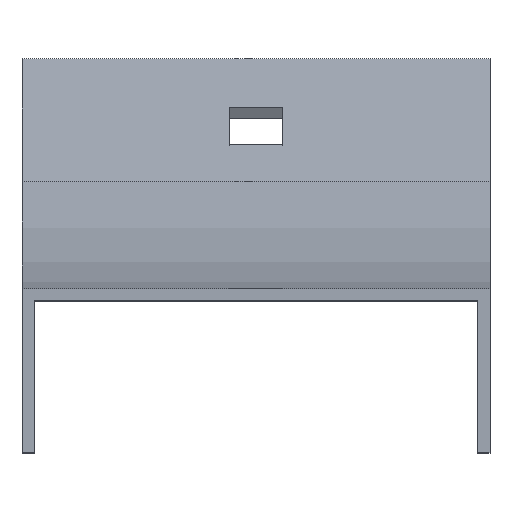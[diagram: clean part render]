
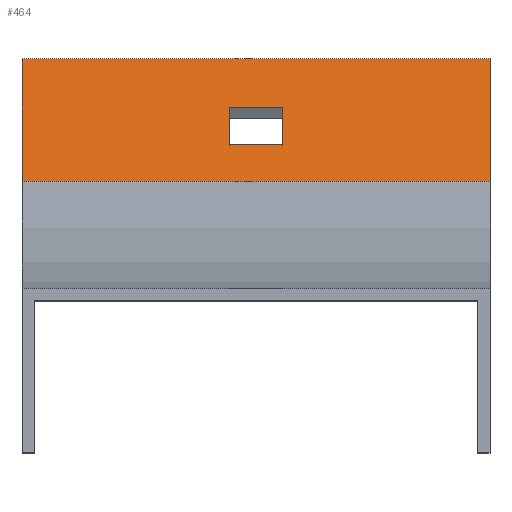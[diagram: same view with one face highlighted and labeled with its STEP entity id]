
A CAD part, top view. The second image highlights one B-rep face of the part: STEP entity #464.
In plain terms, the highlighted planar face has unit normal (0, 0.866, 0.5).
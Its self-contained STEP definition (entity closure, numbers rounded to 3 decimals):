
#2 = VERTEX_POINT ( 'NONE', #532 ) ;
#4 = VERTEX_POINT ( 'NONE', #753 ) ;
#23 = CARTESIAN_POINT ( 'NONE',  ( 3.25, 17.696, -87.044 ) ) ;
#30 = EDGE_CURVE ( 'NONE', #64, #225, #111, .T. ) ;
#40 = VERTEX_POINT ( 'NONE', #522 ) ;
#44 = FACE_OUTER_BOUND ( 'NONE', #645, .T. ) ;
#46 = CARTESIAN_POINT ( 'NONE',  ( 28.5, 13.196, -79.25 ) ) ;
#52 = CARTESIAN_POINT ( 'NONE',  ( -28.5, 13.196, -79.25 ) ) ;
#57 = LINE ( 'NONE', #246, #481 ) ;
#63 = CARTESIAN_POINT ( 'NONE',  ( 3.25, 17.696, -87.044 ) ) ;
#64 = VERTEX_POINT ( 'NONE', #736 ) ;
#67 = EDGE_CURVE ( 'NONE', #4, #64, #648, .T. ) ;
#78 = CARTESIAN_POINT ( 'NONE',  ( -3.25, 17.696, -87.044 ) ) ;
#80 = LINE ( 'NONE', #416, #752 ) ;
#82 = EDGE_CURVE ( 'NONE', #468, #125, #684, .T. ) ;
#111 = LINE ( 'NONE', #52, #813 ) ;
#120 = EDGE_LOOP ( 'NONE', ( #808, #483, #373, #437 ) ) ;
#125 = VERTEX_POINT ( 'NONE', #23 ) ;
#140 = VECTOR ( 'NONE', #263, 1000. ) ;
#153 = LINE ( 'NONE', #479, #262 ) ;
#190 = DIRECTION ( 'NONE',  ( -1., 0., 0. ) ) ;
#202 = DIRECTION ( 'NONE',  ( 0., -0.5, 0.866 ) ) ;
#219 = CARTESIAN_POINT ( 'NONE',  ( 28.5, 28.196, -105.231 ) ) ;
#225 = VERTEX_POINT ( 'NONE', #815 ) ;
#229 = EDGE_CURVE ( 'NONE', #40, #2, #80, .T. ) ;
#236 = CARTESIAN_POINT ( 'NONE',  ( 3.25, 22.196, -94.838 ) ) ;
#238 = ORIENTED_EDGE ( 'NONE', *, *, #67, .T. ) ;
#243 = CARTESIAN_POINT ( 'NONE',  ( 28.5, 13.196, -79.25 ) ) ;
#245 = EDGE_CURVE ( 'NONE', #4, #456, #153, .T. ) ;
#246 = CARTESIAN_POINT ( 'NONE',  ( -3.25, 22.196, -94.838 ) ) ;
#262 = VECTOR ( 'NONE', #424, 1000. ) ;
#263 = DIRECTION ( 'NONE',  ( -1., 0., 0. ) ) ;
#276 = ORIENTED_EDGE ( 'NONE', *, *, #30, .T. ) ;
#312 = DIRECTION ( 'NONE',  ( 0., 0.5, -0.866 ) ) ;
#359 = VECTOR ( 'NONE', #618, 1000. ) ;
#371 = DIRECTION ( 'NONE',  ( 0., -0.866, -0.5 ) ) ;
#373 = ORIENTED_EDGE ( 'NONE', *, *, #82, .T. ) ;
#386 = DIRECTION ( 'NONE',  ( 0., -0.5, 0.866 ) ) ;
#409 = AXIS2_PLACEMENT_3D ( 'NONE', #243, #371, #312 ) ;
#416 = CARTESIAN_POINT ( 'NONE',  ( -3.25, 17.696, -87.044 ) ) ;
#424 = DIRECTION ( 'NONE',  ( 0., -0.5, 0.866 ) ) ;
#437 = ORIENTED_EDGE ( 'NONE', *, *, #629, .T. ) ;
#456 = VERTEX_POINT ( 'NONE', #501 ) ;
#459 = VECTOR ( 'NONE', #202, 1000. ) ;
#464 = ADVANCED_FACE ( 'NONE', ( #44, #709 ), #576, .F. ) ;
#468 = VERTEX_POINT ( 'NONE', #236 ) ;
#479 = CARTESIAN_POINT ( 'NONE',  ( 28.5, 13.196, -79.25 ) ) ;
#481 = VECTOR ( 'NONE', #601, 1000. ) ;
#483 = ORIENTED_EDGE ( 'NONE', *, *, #513, .T. ) ;
#501 = CARTESIAN_POINT ( 'NONE',  ( 28.5, 13.196, -79.25 ) ) ;
#513 = EDGE_CURVE ( 'NONE', #2, #468, #57, .T. ) ;
#522 = CARTESIAN_POINT ( 'NONE',  ( -3.25, 17.696, -87.044 ) ) ;
#532 = CARTESIAN_POINT ( 'NONE',  ( -3.25, 22.196, -94.838 ) ) ;
#576 = PLANE ( 'NONE',  #409 ) ;
#595 = EDGE_CURVE ( 'NONE', #456, #225, #798, .T. ) ;
#601 = DIRECTION ( 'NONE',  ( 1., 0., 0. ) ) ;
#618 = DIRECTION ( 'NONE',  ( -1., 0., 0. ) ) ;
#625 = VECTOR ( 'NONE', #190, 1000. ) ;
#628 = LINE ( 'NONE', #78, #359 ) ;
#629 = EDGE_CURVE ( 'NONE', #125, #40, #628, .T. ) ;
#645 = EDGE_LOOP ( 'NONE', ( #276, #692, #859, #238 ) ) ;
#648 = LINE ( 'NONE', #219, #140 ) ;
#684 = LINE ( 'NONE', #63, #459 ) ;
#692 = ORIENTED_EDGE ( 'NONE', *, *, #595, .F. ) ;
#695 = DIRECTION ( 'NONE',  ( 0., 0.5, -0.866 ) ) ;
#709 = FACE_BOUND ( 'NONE', #120, .T. ) ;
#736 = CARTESIAN_POINT ( 'NONE',  ( -28.5, 28.196, -105.231 ) ) ;
#752 = VECTOR ( 'NONE', #695, 1000. ) ;
#753 = CARTESIAN_POINT ( 'NONE',  ( 28.5, 28.196, -105.231 ) ) ;
#798 = LINE ( 'NONE', #46, #625 ) ;
#808 = ORIENTED_EDGE ( 'NONE', *, *, #229, .T. ) ;
#813 = VECTOR ( 'NONE', #386, 1000. ) ;
#815 = CARTESIAN_POINT ( 'NONE',  ( -28.5, 13.196, -79.25 ) ) ;
#859 = ORIENTED_EDGE ( 'NONE', *, *, #245, .F. ) ;
